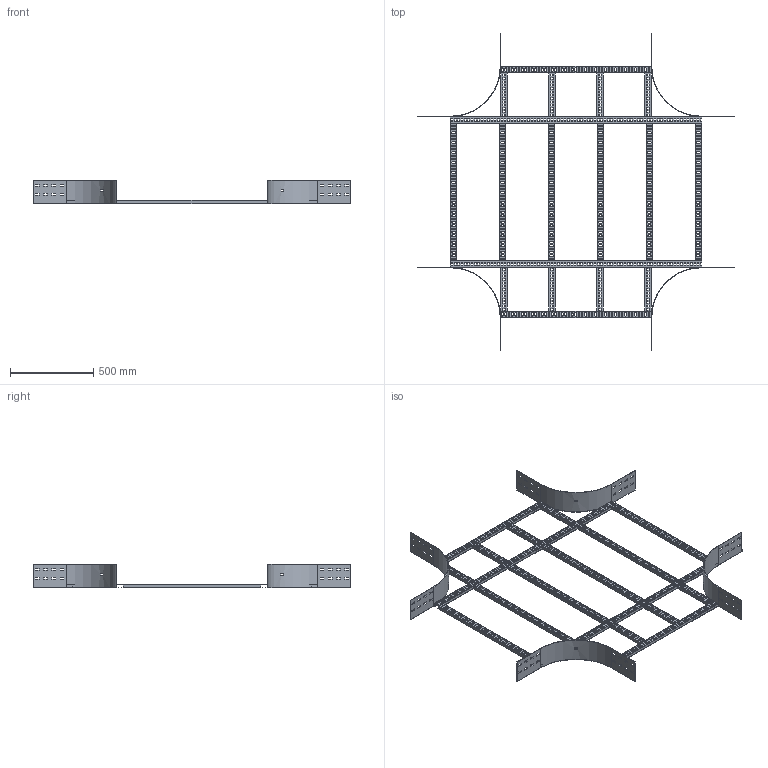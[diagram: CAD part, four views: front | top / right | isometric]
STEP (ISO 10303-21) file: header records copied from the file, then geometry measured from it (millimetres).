
FILE_DESCRIPTION(/* description */ ('','CAx-IF Rec.Pracs.---Representation and Presentation of Product Manufacturing Information (PMI)---4.0---2014-10-13'),/* implementation_level */ '2;1');
FILE_NAME(/* name */ 'Eurostrut_ECO150-900-300_Crossover for Cable Ladder ECL.step',/* time_stamp */ '2026-09-03T13:38:26+02:00',/* author */ (''),/* organization */ (''),/* preprocessor_version */ 'ST-DEVELOPER v20.1',/* originating_system */ 'Autodesk Revit 2027 27.2.0.39',/* authorisation */ '');
FILE_SCHEMA (('AP242_MANAGED_MODEL_BASED_3D_ENGINEERING_MIM_LF { 1 0 10303 442 2 1 4 }'));
Products named in the file (10): TopLevelAssembly; Sweep; Sweep_1; Sweep_2; Sweep_3; Eurostrut_Cable Ladder_Rung_With slots; Eurostrut_Cable Ladder_Rung_With slots_1; Eurostrut_Cable Ladder_Rung Array Straight_Slotted; Eurostrut_Cable Ladder_Rung Array Straight_Slotted_1; Eurostrut_Cable Ladder_Accessory End_54-94-142
Assembly tree (19 placements, depth 2):
  TopLevelAssembly
    Sweep
    Sweep_1
    Eurostrut_Cable Ladder_Rung_With slots  x2
    Eurostrut_Cable Ladder_Rung_With slots_1  x2
    Sweep_2
    Sweep_3
    Eurostrut_Cable Ladder_Rung Array Straight_Slotted
    Eurostrut_Cable Ladder_Rung Array Straight_Slotted_1  x2
    Eurostrut_Cable Ladder_Accessory End_54-94-142  x8
Bounding box: 1911 x 1911 x 142 mm (x, y, z)
Volume: 2896368.1 mm3; surface area: 3035588.2 mm2
Topology: 30 solids, 30 shells, 3036 faces, 8928 edges, 5952 vertices
Faces by surface type: plane 1772, bspline 1184, cylinder 80
Entity records: 91434 total; most frequent: CARTESIAN_POINT 37593, ORIENTED_EDGE 11616, DIRECTION 9934, EDGE_CURVE 5808, LINE 4004, VECTOR 4004, VERTEX_POINT 3872, AXIS2_PLACEMENT_3D 2965
